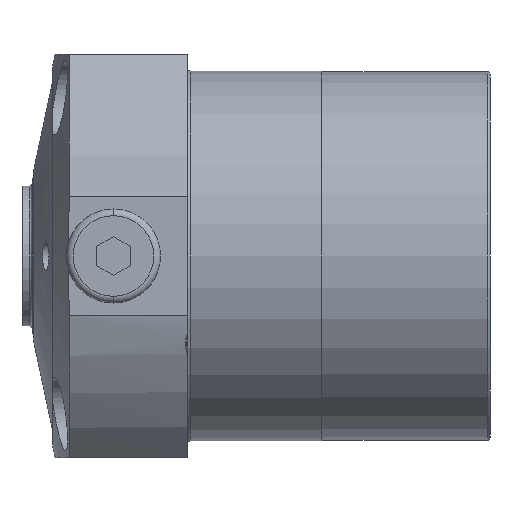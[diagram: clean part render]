
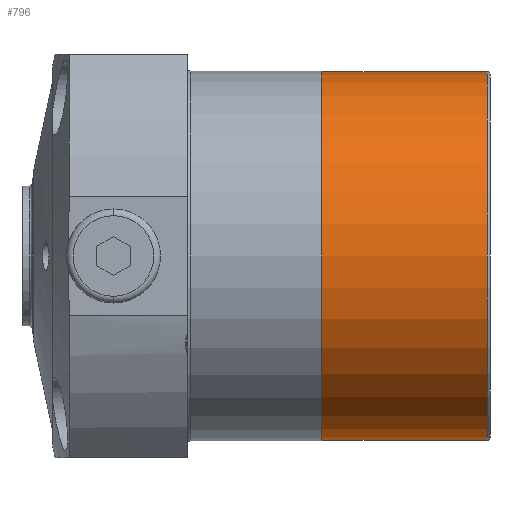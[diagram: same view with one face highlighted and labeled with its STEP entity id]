
A CAD part, left-side view. The second image highlights one B-rep face of the part: STEP entity #796.
In plain terms, the highlighted cylindrical face has radius 27.4 mm (diameter 54.8 mm), a partial arc.
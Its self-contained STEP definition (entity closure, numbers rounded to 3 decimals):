
#377=CYLINDRICAL_SURFACE('',#3176,27.4);
#482=LINE('',#4773,#620);
#483=LINE('',#4777,#621);
#620=VECTOR('',#3731,1.);
#621=VECTOR('',#3734,1.);
#796=ADVANCED_FACE('',(#985),#377,.T.);
#985=FACE_OUTER_BOUND('',#1166,.T.);
#1166=EDGE_LOOP('',(#1805,#1806,#1807,#1808));
#1805=ORIENTED_EDGE('',*,*,#2458,.F.);
#1806=ORIENTED_EDGE('',*,*,#2599,.T.);
#1807=ORIENTED_EDGE('',*,*,#2460,.T.);
#1808=ORIENTED_EDGE('',*,*,#2600,.F.);
#2157=VERTEX_POINT('',#4771);
#2158=VERTEX_POINT('',#4772);
#2159=VERTEX_POINT('',#4774);
#2160=VERTEX_POINT('',#4776);
#2458=EDGE_CURVE('',#2158,#2159,#482,.T.);
#2460=EDGE_CURVE('',#2157,#2160,#483,.T.);
#2599=EDGE_CURVE('',#2158,#2157,#2829,.T.);
#2600=EDGE_CURVE('',#2159,#2160,#2830,.T.);
#2829=CIRCLE('',#3173,27.4);
#2830=CIRCLE('',#3175,27.4);
#3173=AXIS2_PLACEMENT_3D('',#5120,#4018,#4019);
#3175=AXIS2_PLACEMENT_3D('',#5122,#4022,#4023);
#3176=AXIS2_PLACEMENT_3D('',#5123,#4024,#4025);
#3731=DIRECTION('',(0.,1.,0.));
#3734=DIRECTION('',(0.,1.,0.));
#4018=DIRECTION('',(0.,1.,0.));
#4019=DIRECTION('',(0.,0.,1.));
#4022=DIRECTION('',(0.,1.,0.));
#4023=DIRECTION('',(0.,0.,1.));
#4024=DIRECTION('',(0.,1.,0.));
#4025=DIRECTION('',(0.,0.,-1.));
#4771=CARTESIAN_POINT('',(0.,16.1,27.4));
#4772=CARTESIAN_POINT('',(0.,16.1,-27.4));
#4773=CARTESIAN_POINT('',(0.,100.,-27.4));
#4774=CARTESIAN_POINT('',(0.,40.7,-27.4));
#4776=CARTESIAN_POINT('',(0.,40.7,27.4));
#4777=CARTESIAN_POINT('',(0.,100.,27.4));
#5120=CARTESIAN_POINT('',(0.,16.1,0.));
#5122=CARTESIAN_POINT('',(0.,40.7,0.));
#5123=CARTESIAN_POINT('',(0.,100.,0.));
